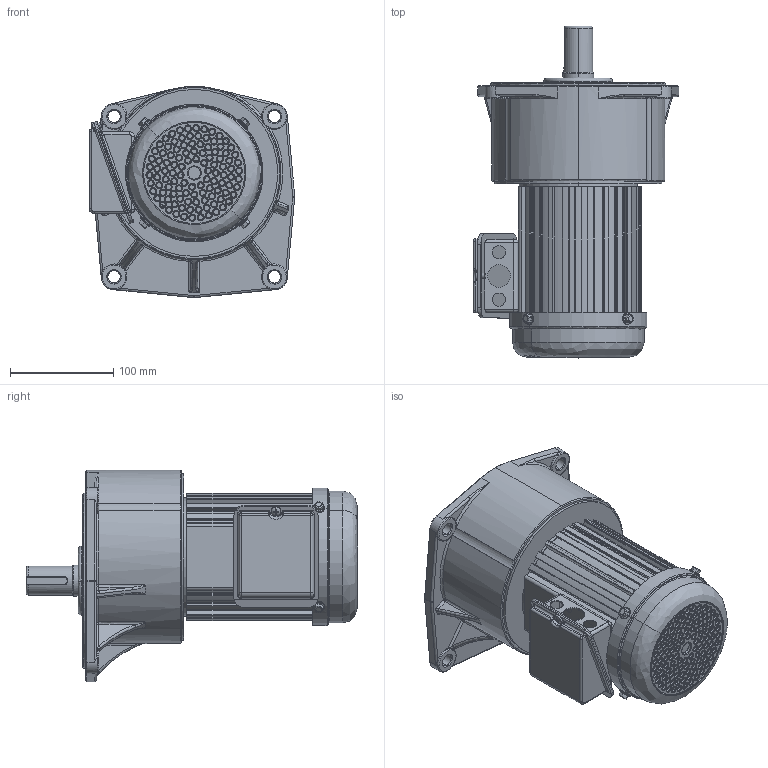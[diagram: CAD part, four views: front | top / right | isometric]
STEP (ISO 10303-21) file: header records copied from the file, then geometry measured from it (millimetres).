
FILE_DESCRIPTION (( 'STEP AP203' ), '1' );
FILE_NAME ('单相200W3#立式.STEP', '2015-10-23T02:23:32', ( '微软中国' ), ( '微软用户' ), 'SwSTEP 2.0', 'SolidWorks 2009', '' );
FILE_SCHEMA (( 'CONFIG_CONTROL_DESIGN' ));
Length unit declared in the file: millimetre
Products named in the file (11): 100W綴裔; 蚾饜极3; 等眈100W諉盄碟裔; 等眈100W諉盄碟釱; 等眈200W3#蕾宒; 200W儂褲; 瑞欶盓殤; 100W瑞欶; Hex Flange Bolts-Heavy Grade B GB_GB_FASTENER_BOLT_HFBB M5X10-N; 3#蕾宒熬厒ん; Cross recessed pan head screws GB_GB_CROSS_SCREWS_TYPE1 M5X6-6  H type-N
Assembly tree (16 placements, depth 3):
  等眈200W3#蕾宒
    Hex Flange Bolts-Heavy Grade B GB_GB_FASTENER_BOLT_HFBB M5X10-N  x4
    100W綴裔
    3#蕾宒熬厒ん
    瑞欶盓殤  x4
    蚾饜极3
      等眈100W諉盄碟裔
      Cross recessed pan head screws GB_GB_CROSS_SCREWS_TYPE1 M5X6-6  H type-N
      等眈100W諉盄碟釱
    100W瑞欶
    200W儂褲
Bounding box: 199.38 x 322 x 204.98 mm (x, y, z)
Volume: 2819772 mm3; surface area: 413128.6 mm2
Topology: 15 solids, 15 shells, 1649 faces, 4309 edges, 2684 vertices
Faces by surface type: bspline 760, cylinder 518, plane 311, torus 30, cone 24, sphere 6
Entity records: 66478 total; most frequent: CARTESIAN_POINT 29537, ORIENTED_EDGE 8060, DIRECTION 7005, EDGE_CURVE 4030, AXIS2_PLACEMENT_3D 2878, VERTEX_POINT 2528, CIRCLE 2068, EDGE_LOOP 1822
